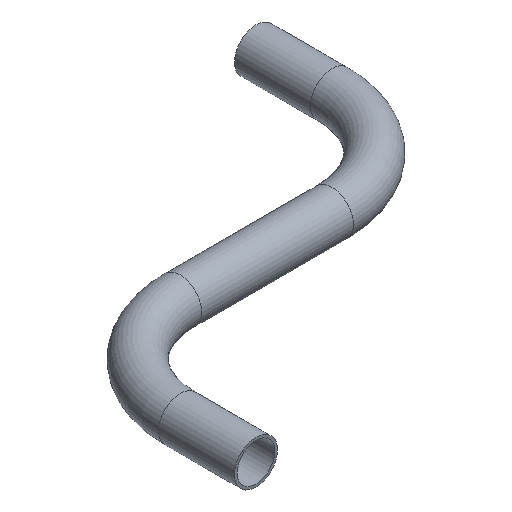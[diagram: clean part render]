
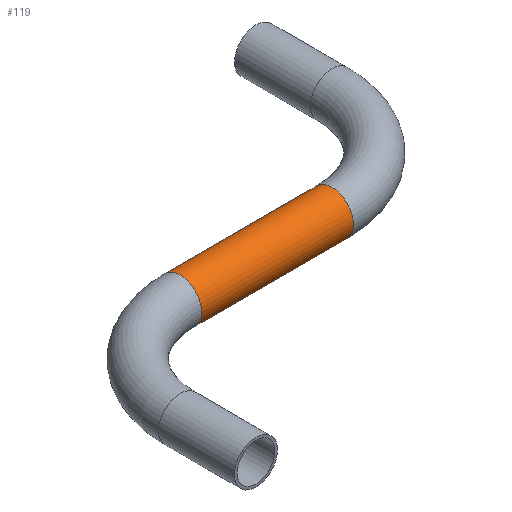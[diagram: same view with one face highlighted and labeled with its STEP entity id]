
A CAD part, isometric view. The second image highlights one B-rep face of the part: STEP entity #119.
In plain terms, the highlighted cylindrical face has radius 24.15 mm (diameter 48.3 mm), a full revolution.
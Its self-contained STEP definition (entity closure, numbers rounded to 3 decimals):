
#20 = ORIENTED_EDGE ( 'NONE', *, *, #263, .T. ) ;
#25 = EDGE_LOOP ( 'NONE', ( #20 ) ) ;
#34 = AXIS2_PLACEMENT_3D ( 'NONE', #291, #64, #37 ) ;
#37 = DIRECTION ( 'NONE',  ( 0., 0., 1. ) ) ;
#47 = ORIENTED_EDGE ( 'NONE', *, *, #141, .F. ) ;
#57 = AXIS2_PLACEMENT_3D ( 'NONE', #207, #134, #82 ) ;
#63 = AXIS2_PLACEMENT_3D ( 'NONE', #183, #185, #208 ) ;
#64 = DIRECTION ( 'NONE',  ( 1., 0., 0. ) ) ;
#66 = CARTESIAN_POINT ( 'NONE',  ( 115., 200., 24.15 ) ) ;
#80 = FACE_OUTER_BOUND ( 'NONE', #210, .T. ) ;
#82 = DIRECTION ( 'NONE',  ( 0., 0., -1. ) ) ;
#119 = ADVANCED_FACE ( 'NONE', ( #80, #310 ), #130, .T. ) ;
#130 = CYLINDRICAL_SURFACE ( 'NONE', #57, 24.15 ) ;
#134 = DIRECTION ( 'NONE',  ( 1., 0., 0. ) ) ;
#141 = EDGE_CURVE ( 'NONE', #265, #265, #212, .T. ) ;
#183 = CARTESIAN_POINT ( 'NONE',  ( 285., 200., 0. ) ) ;
#185 = DIRECTION ( 'NONE',  ( 1., 0., 0. ) ) ;
#193 = VERTEX_POINT ( 'NONE', #66 ) ;
#207 = CARTESIAN_POINT ( 'NONE',  ( 115., 200., 0. ) ) ;
#208 = DIRECTION ( 'NONE',  ( 0., 0., 1. ) ) ;
#210 = EDGE_LOOP ( 'NONE', ( #47 ) ) ;
#212 = CIRCLE ( 'NONE', #63, 24.15 ) ;
#214 = CIRCLE ( 'NONE', #34, 24.15 ) ;
#263 = EDGE_CURVE ( 'NONE', #193, #193, #214, .T. ) ;
#265 = VERTEX_POINT ( 'NONE', #320 ) ;
#291 = CARTESIAN_POINT ( 'NONE',  ( 115., 200., 0. ) ) ;
#310 = FACE_OUTER_BOUND ( 'NONE', #25, .T. ) ;
#320 = CARTESIAN_POINT ( 'NONE',  ( 285., 200., 24.15 ) ) ;
